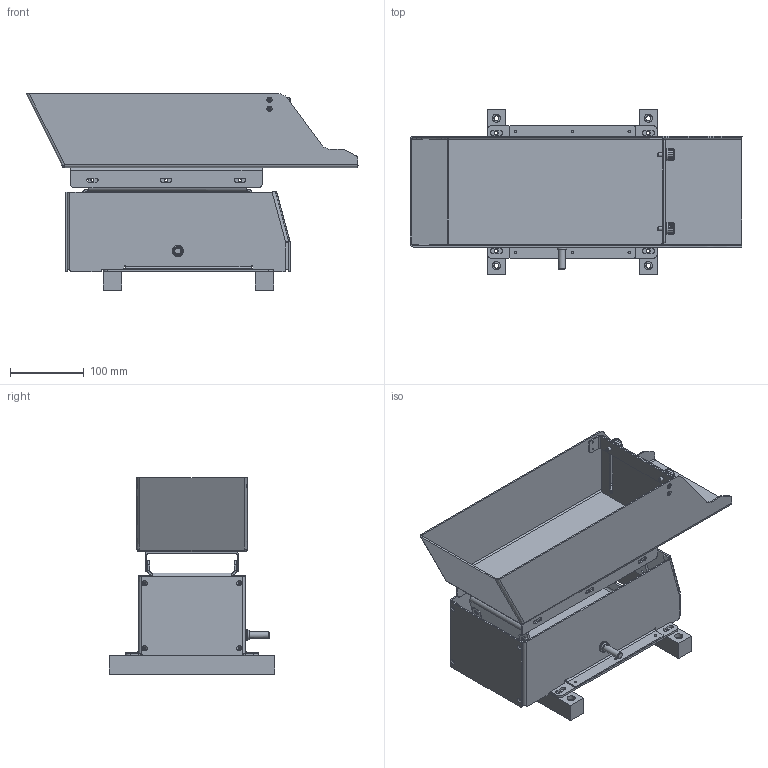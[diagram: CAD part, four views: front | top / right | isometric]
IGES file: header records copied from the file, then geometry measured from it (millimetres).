
Global section: file name: UniHopper3.0 - share; native system: Autodesk Inventor 2024; preprocessor: unknown; author: houns; date: 20260526.144435; units: millimetre
Bounding box: 450 x 224 x 266.05 mm (x, y, z)
Volume: 1170022.5 mm3; surface area: 820404 mm2
Topology: 19 solids, 19 shells, 710 faces, 1922 edges, 1289 vertices
Faces by surface type: bspline 710
